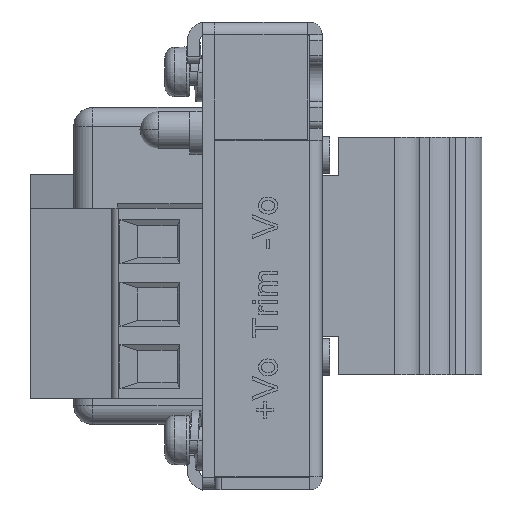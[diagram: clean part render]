
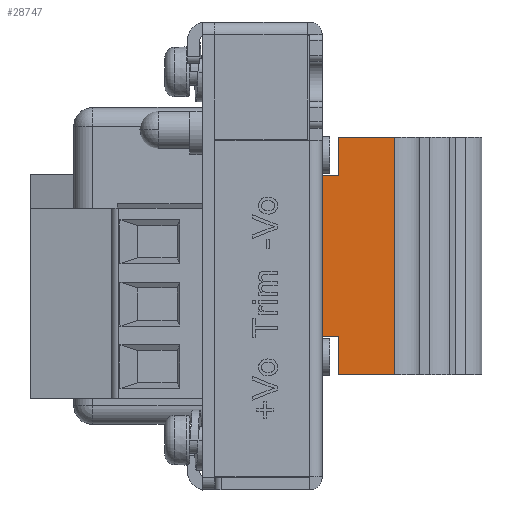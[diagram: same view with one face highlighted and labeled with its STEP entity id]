
A CAD part, left-side view. The second image highlights one B-rep face of the part: STEP entity #28747.
In plain terms, the highlighted planar face has unit normal (-1, 0, 0).
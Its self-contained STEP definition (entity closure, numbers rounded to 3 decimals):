
#723 = LINE ( 'NONE', #50008, #37274 ) ;
#1480 = LINE ( 'NONE', #5780, #48035 ) ;
#1754 = FACE_OUTER_BOUND ( 'NONE', #43150, .T. ) ;
#1817 = CARTESIAN_POINT ( 'NONE',  ( -25.603, -12.655, 88. ) ) ;
#3296 = CARTESIAN_POINT ( 'NONE',  ( -25.603, -8.155, 107. ) ) ;
#3359 = VECTOR ( 'NONE', #35338, 1000. ) ;
#3554 = EDGE_CURVE ( 'NONE', #19472, #21400, #41144, .T. ) ;
#5617 = ORIENTED_EDGE ( 'NONE', *, *, #30609, .F. ) ;
#5780 = CARTESIAN_POINT ( 'NONE',  ( -25.603, -6.855, 103.95 ) ) ;
#6266 = VECTOR ( 'NONE', #18806, 1000. ) ;
#7200 = VERTEX_POINT ( 'NONE', #26539 ) ;
#8837 = DIRECTION ( 'NONE',  ( 0., -1., 0. ) ) ;
#9304 = VERTEX_POINT ( 'NONE', #17331 ) ;
#9855 = LINE ( 'NONE', #21471, #13929 ) ;
#10103 = DIRECTION ( 'NONE',  ( 1., 0., 0. ) ) ;
#10653 = CARTESIAN_POINT ( 'NONE',  ( -25.603, -6.855, 91.05 ) ) ;
#10957 = ORIENTED_EDGE ( 'NONE', *, *, #44292, .T. ) ;
#12314 = EDGE_CURVE ( 'NONE', #21400, #49330, #723, .T. ) ;
#13650 = VECTOR ( 'NONE', #51334, 1000. ) ;
#13929 = VECTOR ( 'NONE', #42175, 1000. ) ;
#15771 = VECTOR ( 'NONE', #8837, 1000. ) ;
#17331 = CARTESIAN_POINT ( 'NONE',  ( -25.603, -8.155, 107. ) ) ;
#17572 = ORIENTED_EDGE ( 'NONE', *, *, #3554, .T. ) ;
#17920 = DIRECTION ( 'NONE',  ( 0., 0., 1. ) ) ;
#18194 = PLANE ( 'NONE',  #29398 ) ;
#18806 = DIRECTION ( 'NONE',  ( 0., -1., 0. ) ) ;
#19398 = VERTEX_POINT ( 'NONE', #38682 ) ;
#19472 = VERTEX_POINT ( 'NONE', #10653 ) ;
#20834 = VECTOR ( 'NONE', #38455, 1000. ) ;
#21400 = VERTEX_POINT ( 'NONE', #22144 ) ;
#21471 = CARTESIAN_POINT ( 'NONE',  ( -25.603, -6.855, 103.95 ) ) ;
#22144 = CARTESIAN_POINT ( 'NONE',  ( -25.603, -8.155, 91.05 ) ) ;
#22608 = CARTESIAN_POINT ( 'NONE',  ( -25.603, -8.155, 88. ) ) ;
#22897 = ORIENTED_EDGE ( 'NONE', *, *, #31847, .F. ) ;
#23272 = DIRECTION ( 'NONE',  ( 0., -1., 0. ) ) ;
#25195 = CARTESIAN_POINT ( 'NONE',  ( -25.603, -12.655, 107. ) ) ;
#25433 = CARTESIAN_POINT ( 'NONE',  ( -25.603, -12.655, 88. ) ) ;
#26539 = CARTESIAN_POINT ( 'NONE',  ( -25.603, -8.155, 103.95 ) ) ;
#28710 = EDGE_CURVE ( 'NONE', #19398, #7200, #9855, .T. ) ;
#28747 = ADVANCED_FACE ( 'NONE', ( #1754 ), #18194, .F. ) ;
#29398 = AXIS2_PLACEMENT_3D ( 'NONE', #34602, #10103, #23272 ) ;
#30609 = EDGE_CURVE ( 'NONE', #9304, #34338, #39506, .T. ) ;
#31847 = EDGE_CURVE ( 'NONE', #34338, #38655, #43755, .T. ) ;
#32446 = ORIENTED_EDGE ( 'NONE', *, *, #37706, .F. ) ;
#34338 = VERTEX_POINT ( 'NONE', #25195 ) ;
#34349 = DIRECTION ( 'NONE',  ( 0., 0., -1. ) ) ;
#34602 = CARTESIAN_POINT ( 'NONE',  ( -25.603, -12.655, 107. ) ) ;
#35338 = DIRECTION ( 'NONE',  ( 0., 0., -1. ) ) ;
#35875 = ORIENTED_EDGE ( 'NONE', *, *, #12314, .T. ) ;
#35907 = ORIENTED_EDGE ( 'NONE', *, *, #28710, .F. ) ;
#35910 = ORIENTED_EDGE ( 'NONE', *, *, #51993, .T. ) ;
#37274 = VECTOR ( 'NONE', #34349, 1000. ) ;
#37706 = EDGE_CURVE ( 'NONE', #19472, #19398, #1480, .T. ) ;
#38455 = DIRECTION ( 'NONE',  ( 0., -1., 0. ) ) ;
#38655 = VERTEX_POINT ( 'NONE', #25433 ) ;
#38682 = CARTESIAN_POINT ( 'NONE',  ( -25.603, -6.855, 103.95 ) ) ;
#39506 = LINE ( 'NONE', #48407, #6266 ) ;
#40877 = CARTESIAN_POINT ( 'NONE',  ( -25.603, -6.855, 91.05 ) ) ;
#41144 = LINE ( 'NONE', #40877, #15771 ) ;
#42175 = DIRECTION ( 'NONE',  ( 0., -1., 0. ) ) ;
#43150 = EDGE_LOOP ( 'NONE', ( #10957, #22897, #5617, #35910, #35907, #32446, #17572, #35875 ) ) ;
#43755 = LINE ( 'NONE', #51588, #13650 ) ;
#44292 = EDGE_CURVE ( 'NONE', #49330, #38655, #46792, .T. ) ;
#46792 = LINE ( 'NONE', #1817, #20834 ) ;
#48035 = VECTOR ( 'NONE', #17920, 1000. ) ;
#48407 = CARTESIAN_POINT ( 'NONE',  ( -25.603, -12.655, 107. ) ) ;
#49330 = VERTEX_POINT ( 'NONE', #22608 ) ;
#50008 = CARTESIAN_POINT ( 'NONE',  ( -25.603, -8.155, 107. ) ) ;
#51334 = DIRECTION ( 'NONE',  ( 0., 0., -1. ) ) ;
#51588 = CARTESIAN_POINT ( 'NONE',  ( -25.603, -12.655, 107. ) ) ;
#51993 = EDGE_CURVE ( 'NONE', #9304, #7200, #52047, .T. ) ;
#52047 = LINE ( 'NONE', #3296, #3359 ) ;
